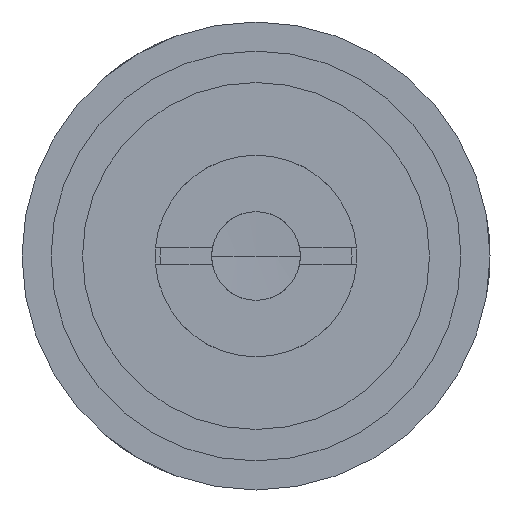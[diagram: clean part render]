
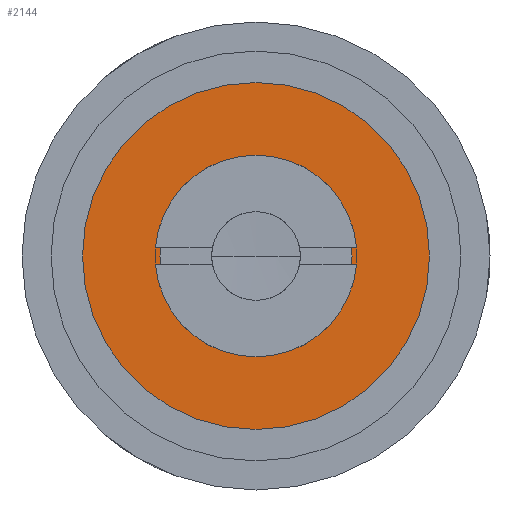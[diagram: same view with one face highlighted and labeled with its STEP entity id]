
A CAD part, front view. The second image highlights one B-rep face of the part: STEP entity #2144.
In plain terms, the highlighted planar face has unit normal (0, -1, 0).
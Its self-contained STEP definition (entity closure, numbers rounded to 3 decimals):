
#14 = CARTESIAN_POINT ( 'NONE',  ( 0., -100.65, -5.95 ) ) ;
#59 = DIRECTION ( 'NONE',  ( 0., 1., 0. ) ) ;
#106 = VERTEX_POINT ( 'NONE', #1058 ) ;
#143 = AXIS2_PLACEMENT_3D ( 'NONE', #592, #2185, #1944 ) ;
#156 = EDGE_LOOP ( 'NONE', ( #2051, #322 ) ) ;
#314 = CIRCLE ( 'NONE', #1257, 11.5 ) ;
#322 = ORIENTED_EDGE ( 'NONE', *, *, #762, .T. ) ;
#341 = DIRECTION ( 'NONE',  ( 0., -1., 0. ) ) ;
#372 = EDGE_LOOP ( 'NONE', ( #682, #1870 ) ) ;
#378 = EDGE_CURVE ( 'NONE', #2428, #416, #437, .T. ) ;
#401 = EDGE_CURVE ( 'NONE', #416, #2428, #314, .T. ) ;
#416 = VERTEX_POINT ( 'NONE', #1326 ) ;
#437 = CIRCLE ( 'NONE', #870, 11.5 ) ;
#507 = CARTESIAN_POINT ( 'NONE',  ( 0., -100.65, 0. ) ) ;
#592 = CARTESIAN_POINT ( 'NONE',  ( 0., -100.65, 0. ) ) ;
#645 = FACE_BOUND ( 'NONE', #156, .T. ) ;
#653 = EDGE_CURVE ( 'NONE', #106, #849, #1134, .T. ) ;
#682 = ORIENTED_EDGE ( 'NONE', *, *, #401, .F. ) ;
#709 = FACE_OUTER_BOUND ( 'NONE', #372, .T. ) ;
#730 = CARTESIAN_POINT ( 'NONE',  ( 0., -100.65, -11.5 ) ) ;
#747 = AXIS2_PLACEMENT_3D ( 'NONE', #1913, #341, #1759 ) ;
#762 = EDGE_CURVE ( 'NONE', #849, #106, #1264, .T. ) ;
#790 = DIRECTION ( 'NONE',  ( 0., 0., 1. ) ) ;
#817 = CARTESIAN_POINT ( 'NONE',  ( 0., -100.65, 0. ) ) ;
#849 = VERTEX_POINT ( 'NONE', #14 ) ;
#870 = AXIS2_PLACEMENT_3D ( 'NONE', #1897, #2061, #2086 ) ;
#1058 = CARTESIAN_POINT ( 'NONE',  ( 0., -100.65, 5.95 ) ) ;
#1134 = CIRCLE ( 'NONE', #1434, 5.95 ) ;
#1257 = AXIS2_PLACEMENT_3D ( 'NONE', #507, #59, #790 ) ;
#1264 = CIRCLE ( 'NONE', #143, 5.95 ) ;
#1291 = DIRECTION ( 'NONE',  ( 0., 0., 1. ) ) ;
#1326 = CARTESIAN_POINT ( 'NONE',  ( 0., -100.65, 11.5 ) ) ;
#1434 = AXIS2_PLACEMENT_3D ( 'NONE', #817, #2064, #1291 ) ;
#1759 = DIRECTION ( 'NONE',  ( 0., 0., -1. ) ) ;
#1870 = ORIENTED_EDGE ( 'NONE', *, *, #378, .F. ) ;
#1897 = CARTESIAN_POINT ( 'NONE',  ( 0., -100.65, 0. ) ) ;
#1913 = CARTESIAN_POINT ( 'NONE',  ( -5.95, -100.65, 0. ) ) ;
#1944 = DIRECTION ( 'NONE',  ( 0., 0., 1. ) ) ;
#2051 = ORIENTED_EDGE ( 'NONE', *, *, #653, .T. ) ;
#2061 = DIRECTION ( 'NONE',  ( 0., 1., 0. ) ) ;
#2064 = DIRECTION ( 'NONE',  ( 0., 1., 0. ) ) ;
#2086 = DIRECTION ( 'NONE',  ( 0., 0., 1. ) ) ;
#2144 = ADVANCED_FACE ( 'NONE', ( #645, #709 ), #2328, .T. ) ;
#2185 = DIRECTION ( 'NONE',  ( 0., 1., 0. ) ) ;
#2328 = PLANE ( 'NONE',  #747 ) ;
#2428 = VERTEX_POINT ( 'NONE', #730 ) ;
